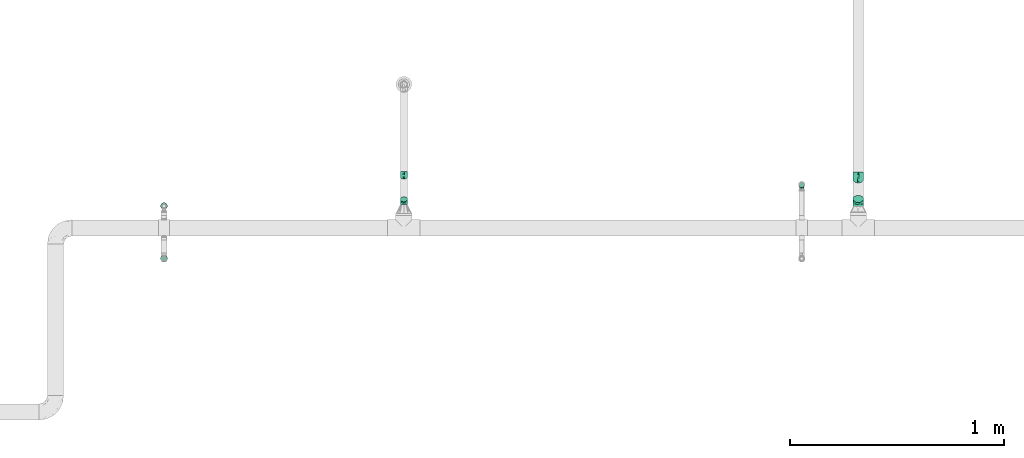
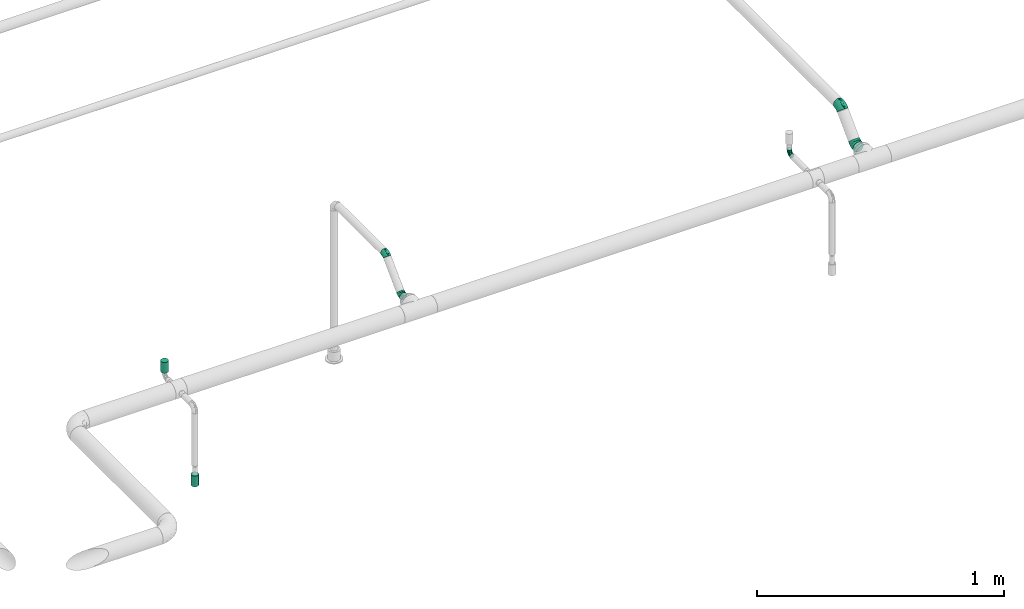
# One storey, part 25 of 51: 5 flow fittings, 2 flow terminals.
"""IFC2X3 building model written with IfcOpenShell, lengths in millimetres."""

from ifc_helpers import new_model, entity, si_unit, converted_unit, derived_unit, direction, frame, origin_with_axes, place, context, subcontext, project, spatial, open_shell, surface_model, source, transform, mapped, type_object, element, save


model = new_model("IFC2X3")

# Units and contexts
model_context = context("Model", 3, precision=0.01, world=frame((0.0, 4.29681676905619e-09, 0.0)), true_north=direction((4.01073788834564e-13, 1.0)))
plan_context = context("Plan", 3, precision=0.01, world=frame((0.0, 4.29681676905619e-09, 0.0)), true_north=direction((4.01073788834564e-13, 1.0)))
body_context = subcontext(model_context, "Body", "Model", "MODEL_VIEW")
ifc_project = project(units=[converted_unit("PLANEANGLEUNIT", "DEGREE", entity("IfcPositiveLengthMeasure", 0.0174532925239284), si_unit("PLANEANGLEUNIT", "RADIAN"), dimensions=[0, 0, 0, 0, 0, 0, 0]), si_unit("AREAUNIT", "SQUARE_METRE"), si_unit("LENGTHUNIT", "METRE", prefix="MILLI"), si_unit("MASSUNIT", "GRAM", prefix="KILO"), si_unit("POWERUNIT", "WATT"), si_unit("PRESSUREUNIT", "PASCAL"), si_unit("FORCEUNIT", "NEWTON", prefix="KILO"), si_unit("ELECTRICVOLTAGEUNIT", "VOLT"), si_unit("ELECTRICCURRENTUNIT", "AMPERE"), si_unit("THERMODYNAMICTEMPERATUREUNIT", "DEGREE_CELSIUS"), si_unit("TIMEUNIT", "SECOND"), si_unit("VOLUMEUNIT", "CUBIC_METRE"), derived_unit("LINEARVELOCITYUNIT", [(si_unit("LENGTHUNIT", "METRE"), 1), (si_unit("TIMEUNIT", "SECOND"), -1)]), derived_unit("VOLUMETRICFLOWRATEUNIT", [(si_unit("VOLUMEUNIT", "CUBIC_METRE"), 1), (si_unit("TIMEUNIT", "SECOND"), -1)]), derived_unit("THERMALTRANSMITTANCEUNIT", [(si_unit("POWERUNIT", "WATT"), 1), (si_unit("THERMODYNAMICTEMPERATUREUNIT", "KELVIN"), -1), (si_unit("AREAUNIT", "SQUARE_METRE"), -1)]), derived_unit("SOUNDPRESSUREUNIT", [(si_unit("PRESSUREUNIT", "PASCAL"), 1)])], contexts=[model_context, plan_context])

# Site, building, storey
site_placement = place(None, frame((0.0, -4.29681676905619e-09, 0.0), z_axis=(0.0, 0.0, 1.0), x_axis=(1.0, 0.0, 0.0)))
site = spatial("IfcSite", under=ifc_project, at=site_placement, Name="ENGM", CompositionType="ELEMENT")
building_placement = place(site_placement, frame((0.0, 4.29681676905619e-09, 0.0), z_axis=(0.0, 0.0, 1.0), x_axis=(1.0, 0.0, 0.0)))
building = spatial("IfcBuilding", under=site, at=building_placement, Name="TH", CompositionType="ELEMENT")
storey_placement = place(building_placement, frame((0.0, 0.0, 210200.0), z_axis=(0.0, 0.0, 1.0), x_axis=(1.0, 0.0, 0.0)))
storey = spatial("IfcBuildingStorey", under=building, at=storey_placement, Name="Nivå F - 0,7 m", CompositionType="ELEMENT", Elevation=210200.0)

# Flow fittings
pipe_fitting_type = type_object("IfcPipeFittingType", Name="magi_pipe_fe_elbow_short_001", PredefinedType="BEND")
shared_shape_1 = source(origin_with_axes(), body_context, "Body", "SurfaceModel", [
    surface_model("IfcShellBasedSurfaceModel", [(-21.4, 2.76936, -10.33541), (-21.4, 0.0, -10.7), (-21.4, 7.56604, -7.56604), (-21.4, 5.35, -9.26647), (-21.4, 10.33541, -2.76936), (-21.4, 9.26647, -5.35), (-21.4, -7.56604, 7.56604), (-21.4, -5.35, -9.26647), (-21.4, -5.35, 9.26647), (-21.4, -7.56604, -7.56604), (-21.4, -9.26647, -5.35), (-21.4, -2.76936, -10.33541), (-21.4, -10.33541, -2.76936), (-21.4, -10.7, 0.0), (-21.4, 10.7, 0.0), (-21.4, 10.33541, 2.76936), (-21.4, 9.26647, 5.35), (-21.4, 7.56604, 7.56604), (-21.4, 5.35, 9.26647), (-21.4, 2.76936, 10.33541), (-21.4, -10.33541, 2.76936), (-21.4, -9.26647, 5.35), (-21.4, -2.76936, 10.33541), (-21.4, 0.0, 10.7), (-7.56604, 21.4, -7.56604), (0.0, 21.4, -10.7), (-2.76936, 21.4, -10.33541), (-5.35, 21.4, -9.26647), (-9.26647, 21.4, -5.35), (-10.33541, 21.4, -2.76936), (10.7, 21.4, 0.0), (5.35, 21.4, -9.26647), (9.26647, 21.4, -5.35), (7.56604, 21.4, -7.56604), (2.76936, 21.4, -10.33541), (10.33541, 21.4, -2.76936), (-10.33541, 21.4, 2.76936), (5.35, 21.4, 9.26647), (-7.56604, 21.4, 7.56604), (-9.26647, 21.4, 5.35), (-5.35, 21.4, 9.26647), (-2.76936, 21.4, 10.33541), (9.26647, 21.4, 5.35), (10.33541, 21.4, 2.76936), (7.56604, 21.4, 7.56604), (0.0, 21.4, 10.7), (2.76936, 21.4, 10.33541), (-10.7, 21.4, 0.0), (-17.99408, -9.78739, 0.0), (-9.96908, -7.6371, 0.0), (-9.09404, -6.9243, 4.95785), (-14.48689, -7.04149, 7.24979), (5.63065, 8.24892, 6.28438), (2.06258, 3.09852, 6.68299), (3.46206, 2.41265, 0.0), (0.98571, 10.3211, 10.08431), (-14.58817, -8.87478, 0.0), (5.00363, 14.04705, 8.8538), (-11.43216, -3.30045, 9.33143), (7.6371, 9.96908, 0.0), (8.87478, 14.58817, 0.0), (-7.84024, 13.84213, 8.94205), (-3.62699, 16.02976, 10.31804), (-15.33449, 3.33478, 10.44017), (-7.99137, -0.64527, 9.75219), (-12.26698, 17.61698, 0.0), (-13.83396, 13.83396, 0.0), (-5.22925, -4.43288, 5.66596), (6.39942, 5.35, 0.0), (-15.15468, 10.16047, 6.44408), (-10.16467, 10.01422, 9.23503), (9.78739, 17.99408, 0.0), (-7.22951, 3.98894, 10.64848), (-2.16379, -1.00373, 6.95774), (0.52471, -0.52471, 0.0), (-2.94157, 6.97816, 10.50675), (-17.61698, 12.26698, 0.0), (-2.41265, -3.46206, 0.0), (-5.35, -6.39942, 0.0), (-8.83498, -0.07405, -10.11828), (-2.16379, -1.00373, -6.95774), (-5.8406, -4.06158, -6.57779), (-7.84024, 13.84213, -8.94205), (-15.33449, 3.33478, -10.44017), (-11.43216, -3.30045, -9.33143), (-15.15468, 10.16047, -6.44408), (-7.22951, 3.98894, -10.64848), (-10.16467, 10.01422, -9.23503), (2.06258, 3.09852, -6.68299), (-2.94157, 6.97816, -10.50675), (-14.48689, -7.04149, -7.24979), (5.00363, 14.04705, -8.8538), (-3.62699, 16.02976, -10.31804), (0.98571, 10.3211, -10.08431), (5.63065, 8.24892, -6.28438), (-9.09404, -6.9243, -4.95785)], [open_shell([[[0, 1, 2]], [[3, 0, 2]], [[4, 5, 2]], [[6, 1, 7]], [[1, 8, 2]], [[9, 10, 7]], [[1, 11, 7]], [[12, 13, 10]], [[7, 10, 13]], [[13, 6, 7]], [[4, 2, 14]], [[8, 15, 2]], [[16, 15, 17]], [[8, 18, 15]], [[17, 15, 18]], [[18, 8, 19]], [[20, 21, 13]], [[13, 21, 6]], [[22, 23, 8]], [[6, 8, 1]], [[8, 23, 19]], [[15, 14, 2]], [[24, 25, 26]], [[24, 26, 27]], [[24, 28, 29]], [[24, 29, 25]], [[25, 29, 30]], [[31, 32, 33]], [[31, 34, 25]], [[32, 30, 35]], [[30, 32, 31]], [[25, 30, 31]], [[29, 36, 30]], [[30, 36, 37]], [[38, 36, 39]], [[36, 40, 37]], [[40, 36, 38]], [[41, 37, 40]], [[30, 42, 43]], [[44, 42, 30]], [[37, 45, 46]], [[30, 37, 44]], [[41, 45, 37]], [[29, 47, 36]], [[21, 20, 48]], [[49, 50, 51]], [[52, 53, 54]], [[52, 55, 53]], [[51, 6, 56]], [[6, 21, 56]], [[41, 57, 45]], [[23, 51, 58]], [[51, 22, 8]], [[57, 59, 60]], [[61, 55, 62]], [[63, 58, 64]], [[65, 66, 61]], [[51, 23, 22]], [[23, 58, 19]], [[67, 58, 50]], [[54, 68, 52]], [[63, 17, 18]], [[20, 13, 48]], [[14, 15, 69]], [[16, 17, 63]], [[62, 40, 38]], [[19, 58, 63]], [[16, 69, 15]], [[63, 18, 19]], [[59, 52, 68]], [[60, 44, 37]], [[57, 46, 45]], [[69, 70, 66]], [[52, 59, 57]], [[39, 62, 38]], [[60, 42, 44]], [[37, 57, 60]], [[37, 46, 57]], [[6, 51, 8]], [[43, 71, 30]], [[51, 56, 49]], [[70, 69, 72]], [[73, 74, 53]], [[75, 72, 73]], [[16, 63, 69]], [[47, 65, 36]], [[42, 71, 43]], [[55, 57, 62]], [[52, 57, 55]], [[41, 40, 62]], [[60, 71, 42]], [[36, 61, 39]], [[48, 56, 21]], [[61, 62, 39]], [[62, 57, 41]], [[69, 63, 72]], [[53, 75, 73]], [[69, 66, 76]], [[67, 64, 58]], [[75, 53, 55]], [[67, 77, 73]], [[55, 61, 75]], [[70, 75, 61]], [[50, 49, 78]], [[67, 50, 78]], [[51, 50, 58]], [[77, 74, 73]], [[73, 72, 64]], [[67, 78, 77]], [[73, 64, 67]], [[63, 64, 72]], [[36, 65, 61]], [[75, 70, 72]], [[14, 69, 76]], [[66, 70, 61]], [[53, 74, 54]], [[79, 80, 81]], [[65, 29, 82]], [[3, 2, 83]], [[0, 84, 1]], [[4, 14, 85]], [[10, 48, 12]], [[83, 5, 85]], [[85, 5, 4]], [[86, 85, 87]], [[83, 86, 79]], [[83, 84, 0]], [[48, 13, 12]], [[80, 77, 81]], [[88, 80, 89]], [[10, 9, 56]], [[7, 11, 90]], [[91, 31, 60]], [[9, 7, 90]], [[90, 11, 1]], [[84, 90, 1]], [[9, 90, 56]], [[28, 92, 82]], [[5, 83, 2]], [[85, 14, 76]], [[80, 88, 74]], [[82, 66, 65]], [[93, 82, 92]], [[28, 82, 29]], [[28, 24, 92]], [[24, 27, 92]], [[71, 60, 32]], [[91, 92, 26]], [[56, 48, 10]], [[35, 30, 71]], [[27, 26, 92]], [[94, 88, 93]], [[25, 91, 26]], [[31, 91, 34]], [[83, 0, 3]], [[94, 93, 91]], [[33, 60, 31]], [[89, 93, 88]], [[34, 91, 25]], [[71, 32, 35]], [[92, 91, 93]], [[59, 91, 60]], [[86, 83, 85]], [[95, 78, 49]], [[33, 32, 60]], [[66, 87, 85]], [[94, 59, 68]], [[89, 80, 86]], [[49, 56, 90]], [[94, 54, 88]], [[59, 94, 91]], [[95, 90, 84]], [[87, 89, 86]], [[82, 93, 89]], [[81, 78, 95]], [[90, 95, 49]], [[81, 95, 84]], [[79, 81, 84]], [[82, 87, 66]], [[83, 79, 84]], [[80, 79, 86]], [[77, 80, 74]], [[77, 78, 81]], [[47, 29, 65]], [[76, 66, 85]], [[89, 87, 82]], [[54, 94, 68]], [[54, 74, 88]]])]),
])
flow_fitting_placement = place(storey_placement, frame((903080.0, 484531.46933, 2933.0), z_axis=(-1.0, 0.0, 0.0), x_axis=(0.0, 0.0, -1.0)))
element("IfcFlowFitting", 1, at=flow_fitting_placement, inside=storey, type_object=pipe_fitting_type, Name="magi_pipe_fe_elbow_short_001", context=body_context, shape_type="MappedRepresentation", body=[
    mapped(shared_shape_1, transform((0.0, 0.0, 0.0), scale=1.0)),
])
shared_shape_2 = source(origin_with_axes(), body_context, "Body", "SurfaceModel", [
    surface_model("IfcShellBasedSurfaceModel", [(-20.04794, 6.26342, -23.37541), (-20.04794, 0.0, -24.2), (-20.04794, 17.11198, -17.11198), (-20.04794, 12.1, -20.95781), (-20.04794, 20.95781, -12.1), (-20.04794, 24.2, 0.0), (-20.04794, -12.1, -20.95781), (-20.04794, -23.37541, -6.26342), (-20.04794, 12.1, 20.95781), (-20.04794, -17.11198, -17.11198), (-20.04794, -20.95781, -12.1), (-20.04794, -6.26342, -23.37541), (-20.04794, -24.2, 0.0), (-20.04794, -23.37541, 6.26342), (-20.04794, 23.37541, -6.26342), (-20.04794, 23.37541, 6.26342), (-20.04794, 20.95781, 12.1), (-20.04794, 6.26342, 23.37541), (-20.04794, 17.11198, 17.11198), (-20.04794, -12.1, 20.95781), (-20.04794, -20.95781, 12.1), (-20.04794, -17.11198, 17.11198), (-20.04794, -6.26342, 23.37541), (-20.04794, 0.0, 24.2), (2.07603, 26.27603, -17.11198), (14.17603, 14.17603, -24.2), (9.74712, 18.60494, -23.37541), (5.62004, 22.73202, -20.95781), (-0.64338, 28.99545, -12.1), (-2.35288, 30.70494, -6.26342), (9.74712, 18.60494, 23.37541), (30.70494, -2.35288, -6.26342), (22.73202, 5.62004, -20.95781), (26.27603, 2.07603, -17.11198), (18.60494, 9.74712, -23.37541), (28.99545, -0.64338, -12.1), (30.70494, -2.35288, 6.26342), (31.28802, -2.93595, 0.0), (-2.35288, 30.70494, 6.26342), (2.07603, 26.27603, 17.11198), (-0.64338, 28.99545, 12.1), (5.62004, 22.73202, 20.95781), (22.73202, 5.62004, 20.95781), (26.27603, 2.07603, 17.11198), (28.99545, -0.64338, 12.1), (14.17603, 14.17603, 24.2), (18.60494, 9.74712, 23.37541), (-2.93595, 31.28802, 0.0), (-9.58895, -8.87394, 22.11756), (-5.35387, -13.67728, 18.67366), (2.4848, -5.99883, 21.81264), (-7.81447, -18.50842, 14.17003), (18.61309, -7.56176, 14.17003), (-7.22262, -2.33004, 23.87939), (-9.2984, 10.07028, 22.62359), (-2.30175, 5.55691, 24.11496), (-12.12531, 3.35343, 24.05314), (0.71832, 14.54853, 22.58726), (4.3748, 11.4552, 23.84802), (6.16359, -14.88023, 13.48593), (13.05524, 0.50559, 22.11756), (-9.96931, 24.06805, 9.94241), (-10.67213, 20.29527, 15.27183), (-6.87406, 16.59544, 19.75701), (2.08331, -20.34427, 4.27799), (11.06314, -16.77413, 4.27799), (7.15607, -17.27629, 8.42123), (-6.15653, -21.43683, 0.0), (-6.81948, -22.57273, 4.40876), (23.3224, -9.25737, 4.65451), (17.8727, -11.73622, 8.40404), (-9.69317, 25.93098, 5.08471), (-4.33914, -20.93667, 8.40404), (6.75475, 3.45958, 23.87939), (13.45706, -5.88554, 18.67366), (7.73488, -18.67365, 0.0), (19.51145, -10.8048, 0.0), (-10.787, 26.04211, 0.0), (4.06192, -9.80635, 19.29816), (-7.22262, -2.33004, -23.87939), (12.91245, -15.85869, -4.27799), (4.03828, -19.68392, -4.27799), (7.15607, -17.27629, -8.42123), (6.75475, 3.45958, -23.87939), (-10.79529, 9.77944, -22.58726), (-11.1935, 5.0066, -23.84802), (-6.80459, 21.89726, -15.27183), (13.45706, -5.88554, -18.67366), (-9.96931, 24.06805, -9.9424), (17.8727, -11.73622, -8.40404), (-11.48187, 25.19008, -5.08471), (-0.5458, 13.69573, -22.62359), (-9.94548, -23.03738, -4.65451), (-4.33914, -20.93667, -8.40404), (6.16359, -14.88023, -13.48593), (18.61309, -7.56176, -14.17003), (-7.81447, -18.50842, -14.17003), (-5.35387, -13.67728, -18.67366), (4.06192, -9.80635, -19.29816), (-9.58895, -8.87394, -22.11756), (2.4848, -5.99883, -21.81264), (13.05524, 0.50559, -22.11756), (-2.30175, 5.55691, -24.11496), (-6.87406, 16.59544, -19.75701), (20.78343, -11.13923, -4.40876), (6.20266, 10.94512, -24.05314)], [open_shell([[[0, 1, 2]], [[3, 0, 2]], [[4, 2, 5]], [[6, 2, 1]], [[2, 7, 8]], [[9, 10, 6]], [[1, 11, 6]], [[10, 7, 6]], [[6, 7, 2]], [[12, 13, 7]], [[4, 5, 14]], [[8, 15, 2]], [[16, 15, 8]], [[8, 7, 17]], [[18, 16, 8]], [[7, 19, 17]], [[20, 21, 13]], [[21, 7, 13]], [[22, 23, 19]], [[21, 19, 7]], [[19, 23, 17]], [[15, 5, 2]], [[24, 25, 26]], [[24, 26, 27]], [[24, 28, 29]], [[25, 24, 30]], [[31, 25, 30]], [[32, 31, 33]], [[32, 34, 25]], [[33, 31, 35]], [[25, 31, 32]], [[31, 36, 37]], [[29, 38, 24]], [[24, 38, 30]], [[39, 38, 40]], [[41, 30, 38]], [[41, 38, 39]], [[30, 42, 31]], [[36, 43, 44]], [[36, 31, 43]], [[42, 45, 46]], [[31, 42, 43]], [[30, 45, 42]], [[38, 29, 47]], [[48, 49, 50]], [[21, 51, 49]], [[19, 21, 49]], [[44, 43, 52]], [[23, 22, 53]], [[22, 19, 48]], [[8, 17, 54]], [[55, 56, 53]], [[23, 56, 17]], [[30, 57, 58]], [[49, 51, 59]], [[42, 46, 60]], [[61, 16, 62]], [[63, 18, 8]], [[64, 65, 66]], [[67, 64, 68]], [[69, 36, 70]], [[61, 71, 15]], [[20, 13, 72]], [[5, 15, 71]], [[15, 16, 61]], [[21, 20, 51]], [[54, 63, 8]], [[72, 66, 59]], [[12, 67, 68]], [[41, 39, 63]], [[45, 58, 73]], [[43, 42, 74]], [[40, 38, 61]], [[73, 46, 45]], [[64, 67, 75]], [[43, 74, 52]], [[55, 58, 57]], [[74, 42, 60]], [[20, 72, 51]], [[76, 69, 65]], [[36, 69, 37]], [[56, 54, 17]], [[71, 61, 38]], [[77, 71, 47]], [[52, 59, 70]], [[49, 78, 50]], [[50, 73, 53]], [[30, 41, 57]], [[50, 60, 73]], [[61, 62, 40]], [[55, 53, 73]], [[39, 40, 62]], [[63, 54, 57]], [[48, 53, 22]], [[16, 18, 62]], [[36, 44, 70]], [[59, 51, 72]], [[78, 59, 74]], [[59, 52, 74]], [[70, 44, 52]], [[18, 63, 62]], [[39, 62, 63]], [[63, 57, 41]], [[55, 57, 54]], [[49, 48, 19]], [[53, 48, 50]], [[73, 60, 46]], [[74, 60, 50]], [[73, 58, 55]], [[45, 30, 58]], [[53, 56, 23]], [[54, 56, 55]], [[64, 66, 72]], [[70, 59, 66]], [[64, 72, 68]], [[65, 64, 75]], [[76, 65, 75]], [[70, 66, 65]], [[72, 13, 68]], [[12, 68, 13]], [[59, 78, 49]], [[74, 50, 78]], [[47, 71, 38]], [[71, 77, 5]], [[65, 69, 70]], [[37, 69, 76]], [[11, 1, 79]], [[80, 81, 82]], [[25, 34, 83]], [[84, 85, 0]], [[4, 86, 2]], [[32, 33, 87]], [[88, 86, 4]], [[35, 31, 89]], [[14, 90, 88]], [[27, 26, 91]], [[92, 7, 93]], [[3, 84, 0]], [[67, 92, 81]], [[94, 95, 89]], [[7, 92, 12]], [[96, 9, 97]], [[9, 6, 97]], [[98, 94, 97]], [[7, 10, 93]], [[9, 96, 10]], [[99, 6, 11]], [[96, 94, 93]], [[100, 79, 83]], [[101, 83, 34]], [[5, 77, 90]], [[80, 76, 75]], [[47, 29, 90]], [[102, 83, 79]], [[24, 27, 103]], [[88, 4, 14]], [[28, 86, 88]], [[99, 97, 6]], [[91, 103, 27]], [[85, 79, 1]], [[103, 91, 84]], [[2, 103, 3]], [[76, 80, 104]], [[25, 105, 26]], [[101, 34, 32]], [[89, 82, 94]], [[33, 35, 95]], [[87, 100, 101]], [[87, 95, 94]], [[100, 99, 79]], [[37, 76, 104]], [[28, 24, 86]], [[105, 91, 26]], [[95, 87, 33]], [[87, 98, 100]], [[105, 83, 102]], [[102, 85, 84]], [[29, 88, 90]], [[35, 89, 95]], [[29, 28, 88]], [[94, 96, 97]], [[93, 10, 96]], [[24, 103, 86]], [[2, 86, 103]], [[103, 84, 3]], [[102, 84, 91]], [[79, 99, 11]], [[97, 99, 100]], [[87, 101, 32]], [[83, 101, 100]], [[79, 85, 102]], [[1, 0, 85]], [[83, 105, 25]], [[91, 105, 102]], [[80, 82, 89]], [[93, 94, 82]], [[80, 89, 104]], [[81, 80, 75]], [[67, 81, 75]], [[93, 82, 81]], [[89, 31, 104]], [[37, 104, 31]], [[94, 98, 87]], [[97, 100, 98]], [[5, 90, 14]], [[90, 77, 47]], [[81, 92, 93]], [[12, 92, 67]]])]),
])
for number, where, z_axis, x_axis, name in (
    (2, (903344.15403, 484450.41519, 2933.0), (1.0, 0.0, 0.0), (0.0, 1.0, 0.0), "magi_pipe_fe_elbow_short_001"),
    (3, (903344.15403, 484570.41519, 3053.0), (-1.0, 0.0, 0.0), (0.0, 0.707106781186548, 0.707106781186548), "magi_pipe_fe_elbow_short_001"),
):
    element("IfcFlowFitting", number, at=place(storey_placement, frame(where, z_axis=z_axis, x_axis=x_axis)), inside=storey, type_object=pipe_fitting_type, Name=name, context=body_context, shape_type="MappedRepresentation", body=[
        mapped(shared_shape_2, transform((0.0, 0.0, 0.0), scale=1.0)),
    ])
shared_shape_3 = source(origin_with_axes(), body_context, "Body", "SurfaceModel", [
    surface_model("IfcShellBasedSurfaceModel", [(-14.00042, 4.37404, -16.32415), (-14.00042, 0.0, -16.9), (-14.00042, 11.9501, -11.9501), (-14.00042, 8.45, -14.63583), (-14.00042, 16.32415, -4.37404), (-14.00042, 14.63583, -8.45), (-14.00042, -14.63583, -8.45), (-14.00042, -16.32415, -4.37404), (-14.00042, -8.45, 14.63583), (-14.00042, -11.9501, -11.9501), (-14.00042, -8.45, -14.63583), (-14.00042, -4.37404, -16.32415), (-14.00042, -16.9, 0.0), (-14.00042, -16.32415, 4.37404), (-14.00042, 11.9501, 11.9501), (-14.00042, 16.32415, 4.37404), (-14.00042, 14.63583, 8.45), (-14.00042, 4.37404, 16.32415), (-14.00042, 8.45, 14.63583), (-14.00042, -14.63583, 8.45), (-14.00042, -11.9501, 11.9501), (-14.00042, -4.37404, 16.32415), (-14.00042, 0.0, 16.9), (-14.00042, 16.9, 0.0), (1.44979, 18.34979, -11.9501), (9.89979, 9.89979, -16.9), (6.80688, 12.99271, -16.32415), (3.92474, 15.87484, -14.63583), (-0.4493, 20.24888, -8.45), (-1.64312, 21.4427, -4.37404), (20.24888, -0.4493, -8.45), (15.87484, 3.92474, -14.63583), (18.34979, 1.44979, -11.9501), (12.99271, 6.80688, -16.32415), (15.87484, 3.92474, 14.63583), (21.4427, -1.64312, -4.37404), (21.4427, -1.64312, 4.37404), (21.84989, -2.05031, 0.0), (-2.05031, 21.84989, 0.0), (1.44979, 18.34979, 11.9501), (-1.64312, 21.4427, 4.37404), (-0.4493, 20.24888, 8.45), (3.92474, 15.87484, 14.63583), (6.80688, 12.99271, 16.32415), (20.24888, -0.4493, 8.45), (18.34979, 1.44979, 11.9501), (9.89979, 9.89979, 16.9), (12.99271, 6.80688, 16.32415), (-6.69642, -6.19709, 15.44573), (-3.73886, -9.55149, 13.0407), (1.73525, -4.18927, 15.2328), (-5.45721, -12.9253, 9.8956), (12.9984, -5.28073, 9.8956), (-5.04389, -1.62717, 16.6761), (-6.49351, 7.03255, 15.79912), (-1.60742, 3.88065, 16.84061), (-8.46768, 2.34185, 16.79744), (0.50163, 10.15992, 15.77375), (3.05513, 7.9997, 16.65419), (4.30433, -10.39156, 9.41786), (9.11709, 0.35308, 15.44573), (-6.96204, 16.80785, 6.94325), (-7.45285, 14.17314, 10.66504), (-4.80048, 11.58938, 13.79725), (1.45487, -14.20736, 2.98752), (7.72591, -11.71416, 2.98752), (4.99742, -12.06485, 5.88094), (-4.29939, -14.97035, 0.0), (-4.76236, -15.7636, 3.07885), (16.28713, -6.46486, 3.25046), (12.48134, -8.19596, 5.86894), (-6.7692, 18.10883, 3.55089), (-3.03023, -14.62106, 5.86894), (4.71716, 2.41599, 16.6761), (9.3977, -4.11015, 13.0407), (5.40163, -13.04069, 0.0), (13.62576, -7.5455, 0.0), (-7.53307, 18.18644, 0.0), (2.83663, -6.84823, 13.47681), (-5.04389, -1.62717, -16.6761), (9.01737, -11.07487, -2.98752), (2.82012, -13.74621, -2.98752), (4.99742, -12.06485, -5.88094), (4.71716, 2.41599, -16.6761), (-7.53886, 6.82944, -15.77375), (-7.81695, 3.49634, -16.65419), (-4.75196, 15.29189, -10.66504), (9.3977, -4.11015, -13.0407), (-6.96204, 16.80785, -6.94325), (12.48135, -8.19596, -5.86894), (-8.01833, 17.59142, -3.55089), (-0.38116, 9.56437, -15.79912), (-6.9454, -16.08809, -3.25046), (-3.03023, -14.62106, -5.86894), (4.30433, -10.39156, -9.41786), (12.9984, -5.28073, -9.8956), (-5.45721, -12.9253, -9.8956), (-3.73886, -9.55149, -13.0407), (2.83663, -6.84823, -13.47681), (-6.69642, -6.19709, -15.44573), (1.73525, -4.18927, -15.2328), (9.11709, 0.35308, -15.44573), (-1.60742, 3.88065, -16.84061), (-4.80048, 11.58938, -13.79725), (14.51405, -7.77905, -3.07885), (4.33161, 7.64349, -16.79744)], [open_shell([[[0, 1, 2]], [[3, 0, 2]], [[4, 5, 2]], [[6, 2, 1]], [[2, 7, 8]], [[9, 6, 10]], [[1, 11, 10]], [[1, 10, 6]], [[6, 7, 2]], [[12, 13, 7]], [[4, 2, 14]], [[14, 15, 4]], [[16, 15, 14]], [[17, 18, 14]], [[2, 8, 14]], [[17, 14, 8]], [[19, 20, 13]], [[13, 20, 7]], [[21, 22, 8]], [[20, 8, 7]], [[8, 22, 17]], [[23, 4, 15]], [[24, 25, 26]], [[24, 26, 27]], [[24, 28, 29]], [[25, 24, 30]], [[30, 24, 29]], [[31, 30, 32]], [[31, 33, 25]], [[30, 31, 25]], [[30, 34, 35]], [[35, 36, 37]], [[38, 30, 29]], [[39, 38, 40]], [[39, 40, 41]], [[39, 42, 43]], [[38, 39, 34]], [[34, 39, 43]], [[44, 34, 45]], [[36, 35, 44]], [[34, 46, 47]], [[44, 35, 34]], [[46, 34, 43]], [[30, 38, 34]], [[48, 49, 50]], [[20, 51, 49]], [[8, 20, 49]], [[44, 45, 52]], [[22, 21, 53]], [[21, 8, 48]], [[18, 17, 54]], [[55, 56, 53]], [[22, 56, 17]], [[43, 57, 58]], [[49, 51, 59]], [[34, 47, 60]], [[61, 16, 62]], [[63, 14, 18]], [[64, 65, 66]], [[67, 64, 68]], [[69, 36, 70]], [[61, 71, 15]], [[19, 13, 72]], [[23, 15, 71]], [[15, 16, 61]], [[20, 19, 51]], [[54, 63, 18]], [[72, 66, 59]], [[12, 67, 68]], [[42, 39, 63]], [[46, 58, 73]], [[45, 34, 74]], [[41, 40, 61]], [[73, 47, 46]], [[64, 67, 75]], [[45, 74, 52]], [[55, 58, 57]], [[74, 34, 60]], [[19, 72, 51]], [[76, 69, 65]], [[36, 69, 37]], [[56, 54, 17]], [[71, 61, 40]], [[77, 71, 38]], [[52, 59, 70]], [[49, 78, 50]], [[50, 73, 53]], [[43, 42, 57]], [[50, 60, 73]], [[61, 62, 41]], [[55, 53, 73]], [[39, 41, 62]], [[63, 54, 57]], [[48, 53, 21]], [[16, 14, 62]], [[36, 44, 70]], [[59, 51, 72]], [[78, 59, 74]], [[59, 52, 74]], [[70, 44, 52]], [[14, 63, 62]], [[39, 62, 63]], [[63, 57, 42]], [[55, 57, 54]], [[49, 48, 8]], [[53, 48, 50]], [[73, 60, 47]], [[74, 60, 50]], [[73, 58, 55]], [[46, 43, 58]], [[53, 56, 22]], [[54, 56, 55]], [[64, 66, 72]], [[70, 59, 66]], [[64, 72, 68]], [[65, 64, 75]], [[76, 65, 75]], [[70, 66, 65]], [[72, 13, 68]], [[12, 68, 13]], [[59, 78, 49]], [[74, 50, 78]], [[38, 71, 40]], [[71, 77, 23]], [[65, 69, 70]], [[37, 69, 76]], [[11, 1, 79]], [[80, 81, 82]], [[25, 33, 83]], [[84, 85, 0]], [[5, 86, 2]], [[31, 32, 87]], [[88, 86, 5]], [[30, 35, 89]], [[4, 90, 88]], [[27, 26, 91]], [[92, 7, 93]], [[3, 84, 0]], [[67, 92, 81]], [[94, 95, 89]], [[7, 92, 12]], [[96, 9, 97]], [[9, 10, 97]], [[98, 94, 97]], [[7, 6, 93]], [[9, 96, 6]], [[99, 10, 11]], [[96, 94, 93]], [[100, 79, 83]], [[101, 83, 33]], [[23, 77, 90]], [[80, 76, 75]], [[38, 29, 90]], [[102, 83, 79]], [[24, 27, 103]], [[88, 5, 4]], [[28, 86, 88]], [[99, 97, 10]], [[91, 103, 27]], [[85, 79, 1]], [[103, 91, 84]], [[2, 103, 3]], [[76, 80, 104]], [[25, 105, 26]], [[101, 33, 31]], [[89, 82, 94]], [[32, 30, 95]], [[87, 100, 101]], [[87, 95, 94]], [[100, 99, 79]], [[37, 76, 104]], [[28, 24, 86]], [[105, 91, 26]], [[95, 87, 32]], [[87, 98, 100]], [[105, 83, 102]], [[102, 85, 84]], [[29, 88, 90]], [[30, 89, 95]], [[29, 28, 88]], [[94, 96, 97]], [[93, 6, 96]], [[24, 103, 86]], [[2, 86, 103]], [[103, 84, 3]], [[102, 84, 91]], [[79, 99, 11]], [[97, 99, 100]], [[87, 101, 31]], [[83, 101, 100]], [[79, 85, 102]], [[1, 0, 85]], [[83, 105, 25]], [[91, 105, 102]], [[80, 82, 89]], [[93, 94, 82]], [[80, 89, 104]], [[81, 80, 75]], [[67, 81, 75]], [[93, 82, 81]], [[89, 35, 104]], [[37, 104, 35]], [[94, 98, 87]], [[97, 100, 98]], [[23, 90, 4]], [[90, 77, 38]], [[81, 92, 93]], [[12, 92, 67]]])]),
])
for number, where, z_axis, x_axis, name in (
    (4, (901220.93402, 484453.31865, 2933.0), (1.0, 0.0, 0.0), (0.0, 1.0, 0.0), "magi_pipe_fe_elbow_short_001"),
    (5, (901220.93402, 484579.12558, 3058.80692999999), (-1.0, 0.0, 0.0), (0.0, 0.707106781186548, 0.707106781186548), "magi_pipe_fe_elbow_short_001"),
):
    element("IfcFlowFitting", number, at=place(storey_placement, frame(where, z_axis=z_axis, x_axis=x_axis)), inside=storey, type_object=pipe_fitting_type, Name=name, context=body_context, shape_type="MappedRepresentation", body=[
        mapped(shared_shape_3, transform((0.0, 0.0, 0.0), scale=1.0)),
    ])

# Flow terminals
fire_suppression_terminal_type_1 = type_object("IfcFireSuppressionTerminalType", Name="SP-15-K80-68DGR-STD-HIMLING", PredefinedType="NOTDEFINED")
shared_shape_4 = source(origin_with_axes(), body_context, "Body", "SurfaceModel", [
    surface_model("IfcShellBasedSurfaceModel", [(4.1411, -15.45481, 53.0), (8.0, -13.85641, 53.0), (11.31371, -11.31371, 53.0), (-8.0, -13.85641, 53.0), (15.45481, -4.1411, 53.0), (16.0, 0.0, 53.0), (13.85641, -8.0, 53.0), (0.0, -16.0, 53.0), (-4.1411, -15.45481, 53.0), (-13.85641, -8.0, 53.0), (-11.31371, -11.31371, 53.0), (-15.45481, -4.1411, 53.0), (15.45481, 4.1411, 53.0), (13.85641, 8.0, 53.0), (11.31371, 11.31371, 53.0), (-4.1411, 15.45481, 53.0), (8.0, 13.85641, 53.0), (4.1411, 15.45481, 53.0), (0.0, 16.0, 53.0), (-13.85641, 8.0, 53.0), (-15.45481, 4.1411, 53.0), (-16.0, 0.0, 53.0), (-11.31371, 11.31371, 53.0), (-8.0, 13.85641, 53.0), (0.0, 16.0, 0.0), (4.1411, 15.45481, 0.0), (8.0, 13.85641, 0.0), (-4.1411, 15.45481, 0.0), (11.31371, 11.31371, 0.0), (13.85641, 8.0, 0.0), (15.45481, 4.1411, 0.0), (-15.45481, -4.1411, 0.0), (-11.31371, 11.31371, 0.0), (-8.0, 13.85641, 0.0), (-13.85641, 8.0, 0.0), (-15.45481, 4.1411, 0.0), (-16.0, 0.0, 0.0), (4.1411, -15.45481, 0.0), (16.0, 0.0, 0.0), (15.45481, -4.1411, 0.0), (13.85641, -8.0, 0.0), (11.31371, -11.31371, 0.0), (8.0, -13.85641, 0.0), (-8.0, -13.85641, 0.0), (-13.85641, -8.0, 0.0), (-11.31371, -11.31371, 0.0), (0.0, -16.0, 0.0), (-4.1411, -15.45481, 0.0)], [open_shell([[[0, 1, 2]], [[3, 0, 2]], [[4, 5, 2]], [[4, 2, 6]], [[3, 2, 5]], [[7, 3, 8]], [[7, 0, 3]], [[3, 9, 10]], [[9, 3, 11]], [[5, 11, 3]], [[5, 12, 11]], [[12, 13, 14]], [[15, 12, 14]], [[16, 17, 18]], [[14, 16, 15]], [[18, 15, 16]], [[11, 19, 20]], [[21, 11, 20]], [[22, 15, 23]], [[15, 22, 19]], [[19, 11, 15]], [[11, 12, 15]], [[24, 25, 26]], [[27, 24, 26]], [[28, 29, 30]], [[27, 26, 28]], [[27, 28, 31]], [[27, 32, 33]], [[32, 27, 34]], [[34, 31, 35]], [[31, 34, 27]], [[35, 31, 36]], [[28, 30, 31]], [[37, 38, 39]], [[37, 39, 40]], [[41, 42, 37]], [[41, 37, 40]], [[38, 37, 43]], [[44, 43, 45]], [[43, 44, 31]], [[43, 46, 47]], [[43, 31, 38]], [[37, 46, 43]], [[38, 31, 30]], [[11, 31, 44]], [[45, 9, 44]], [[3, 43, 47]], [[45, 43, 10]], [[8, 47, 46]], [[31, 21, 36]], [[31, 11, 21]], [[44, 9, 11]], [[45, 10, 9]], [[3, 10, 43]], [[47, 8, 3]], [[46, 7, 8]], [[0, 37, 42]], [[41, 1, 42]], [[6, 40, 39]], [[41, 40, 2]], [[4, 39, 38]], [[37, 0, 7]], [[42, 1, 0]], [[41, 2, 1]], [[40, 6, 2]], [[4, 6, 39]], [[38, 5, 4]], [[37, 7, 46]], [[12, 38, 30]], [[13, 30, 29]], [[16, 26, 25]], [[17, 25, 24]], [[30, 13, 12]], [[12, 5, 38]], [[28, 14, 13]], [[28, 26, 14]], [[14, 26, 16]], [[25, 17, 16]], [[28, 13, 29]], [[24, 18, 17]], [[15, 27, 33]], [[32, 23, 33]], [[19, 34, 35]], [[32, 34, 22]], [[20, 35, 36]], [[27, 15, 18]], [[33, 23, 15]], [[32, 22, 23]], [[34, 19, 22]], [[20, 19, 35]], [[36, 21, 20]], [[27, 18, 24]]])]),
])
flow_terminal_1_placement = place(storey_placement, frame((900100.0, 484185.40642, 2600.0), z_axis=(0.0, 0.0, -1.0), x_axis=(-1.0, 0.0, 0.0)))
element("IfcFlowTerminal", 6, at=flow_terminal_1_placement, inside=storey, type_object=fire_suppression_terminal_type_1, Name="SP-15-K80-68DGR-STD-HIMLING", context=body_context, shape_type="MappedRepresentation", body=[
    mapped(shared_shape_4, transform((0.0, 0.0, 0.0), scale=1.0)),
])
fire_suppression_terminal_type_2 = type_object("IfcFireSuppressionTerminalType", Name="SP-15-K80-68DGR-STD-STÅENDE", PredefinedType="NOTDEFINED")
flow_terminal_2_placement = place(storey_placement, frame((900100.0, 484431.46933, 2959.5), z_axis=(0.0, 0.0, 1.0), x_axis=(1.0, 0.0, 0.0)))
element("IfcFlowTerminal", 7, at=flow_terminal_2_placement, inside=storey, type_object=fire_suppression_terminal_type_2, Name="SP-15-K80-68DGR-STD-STÅENDE", context=body_context, shape_type="MappedRepresentation", body=[
    mapped(shared_shape_4, transform((0.0, 0.0, 0.0), scale=1.0)),
])

save(model, "model.ifc")
